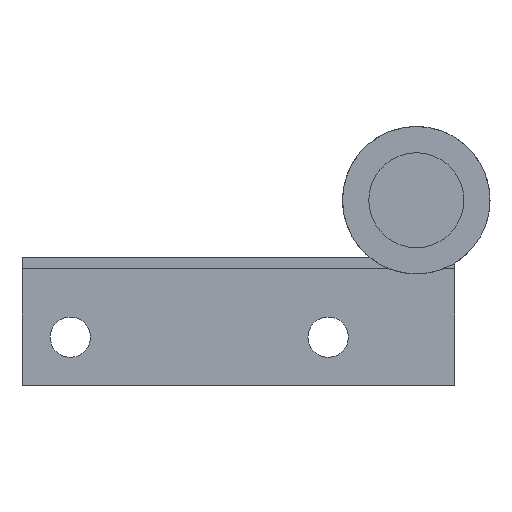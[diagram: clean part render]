
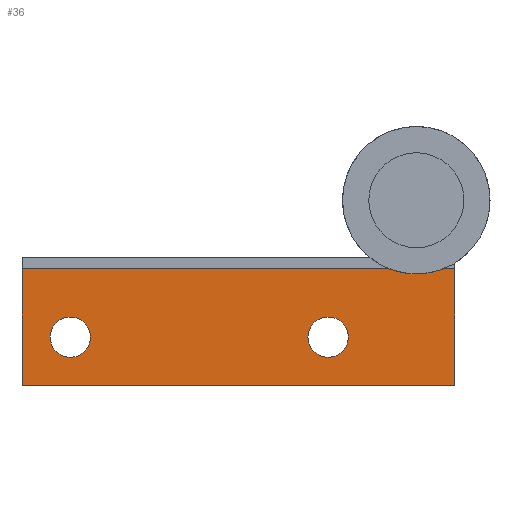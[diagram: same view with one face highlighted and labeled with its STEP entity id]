
A CAD part, front view. The second image highlights one B-rep face of the part: STEP entity #36.
In plain terms, the highlighted planar face has unit normal (0, -1, 0).
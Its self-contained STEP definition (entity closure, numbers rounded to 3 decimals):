
#1 = CARTESIAN_POINT ( 'NONE',  ( -45.45, 383.2, -17. ) ) ;
#12 = CARTESIAN_POINT ( 'NONE',  ( -13.45, 383.2, -17. ) ) ;
#17 = CARTESIAN_POINT ( 'NONE',  ( -8.45, 383.2, -17. ) ) ;
#36 = ADVANCED_FACE ( 'NONE', ( #910, #909, #920 ), #386, .F. ) ;
#59 = AXIS2_PLACEMENT_3D ( 'NONE', #625, #628, #629 ) ;
#84 = EDGE_CURVE ( 'NONE', #318, #319, #730, .T. ) ;
#88 = EDGE_CURVE ( 'NONE', #297, #277, #866, .T. ) ;
#89 = EDGE_CURVE ( 'NONE', #317, #318, #867, .T. ) ;
#96 = AXIS2_PLACEMENT_3D ( 'NONE', #472, #479, #480 ) ;
#105 = EDGE_CURVE ( 'NONE', #269, #319, #713, .T. ) ;
#110 = AXIS2_PLACEMENT_3D ( 'NONE', #539, #540, #541 ) ;
#114 = AXIS2_PLACEMENT_3D ( 'NONE', #645, #657, #658 ) ;
#135 = EDGE_CURVE ( 'NONE', #291, #294, #784, .T. ) ;
#138 = AXIS2_PLACEMENT_3D ( 'NONE', #387, #388, #389 ) ;
#174 = EDGE_CURVE ( 'NONE', #317, #269, #702, .T. ) ;
#193 = EDGE_CURVE ( 'NONE', #277, #297, #687, .T. ) ;
#211 = EDGE_CURVE ( 'NONE', #294, #291, #671, .T. ) ;
#227 = CARTESIAN_POINT ( 'NONE',  ( 4.75, 383.2, -8.5 ) ) ;
#228 = CARTESIAN_POINT ( 'NONE',  ( -48.95, 383.2, -8.5 ) ) ;
#229 = CARTESIAN_POINT ( 'NONE',  ( -48.95, 383.2, -23. ) ) ;
#262 = CARTESIAN_POINT ( 'NONE',  ( -40.45, 383.2, -17. ) ) ;
#269 = VERTEX_POINT ( 'NONE', #659 ) ;
#277 = VERTEX_POINT ( 'NONE', #1 ) ;
#291 = VERTEX_POINT ( 'NONE', #12 ) ;
#294 = VERTEX_POINT ( 'NONE', #17 ) ;
#297 = VERTEX_POINT ( 'NONE', #262 ) ;
#317 = VERTEX_POINT ( 'NONE', #227 ) ;
#318 = VERTEX_POINT ( 'NONE', #228 ) ;
#319 = VERTEX_POINT ( 'NONE', #229 ) ;
#386 = PLANE ( 'NONE',  #138 ) ;
#387 = CARTESIAN_POINT ( 'NONE',  ( 9.15, 383.2, -23. ) ) ;
#388 = DIRECTION ( 'NONE',  ( 0., 1., 0. ) ) ;
#389 = DIRECTION ( 'NONE',  ( 1., 0., 0. ) ) ;
#468 = CARTESIAN_POINT ( 'NONE',  ( -48.95, 383.2, -23. ) ) ;
#472 = CARTESIAN_POINT ( 'NONE',  ( -42.95, 383.2, -17. ) ) ;
#474 = DIRECTION ( 'NONE',  ( 0., 0., -1. ) ) ;
#475 = CARTESIAN_POINT ( 'NONE',  ( 9.15, 383.2, -8.5 ) ) ;
#479 = DIRECTION ( 'NONE',  ( 0., 1., 0. ) ) ;
#480 = DIRECTION ( 'NONE',  ( 1., 0., 0. ) ) ;
#482 = DIRECTION ( 'NONE',  ( -1., 0., 0. ) ) ;
#506 = CARTESIAN_POINT ( 'NONE',  ( 9.15, 383.2, -23. ) ) ;
#507 = DIRECTION ( 'NONE',  ( -1., 0., 0. ) ) ;
#539 = CARTESIAN_POINT ( 'NONE',  ( -10.95, 383.2, -17. ) ) ;
#540 = DIRECTION ( 'NONE',  ( 0., 1., 0. ) ) ;
#541 = DIRECTION ( 'NONE',  ( 1., 0., 0. ) ) ;
#579 = CARTESIAN_POINT ( 'NONE',  ( 4.75, 383.2, -23. ) ) ;
#592 = DIRECTION ( 'NONE',  ( 0., 0., -1. ) ) ;
#625 = CARTESIAN_POINT ( 'NONE',  ( -42.95, 383.2, -17. ) ) ;
#628 = DIRECTION ( 'NONE',  ( 0., 1., 0. ) ) ;
#629 = DIRECTION ( 'NONE',  ( 1., 0., 0. ) ) ;
#645 = CARTESIAN_POINT ( 'NONE',  ( -10.95, 383.2, -17. ) ) ;
#657 = DIRECTION ( 'NONE',  ( 0., 1., 0. ) ) ;
#658 = DIRECTION ( 'NONE',  ( 1., 0., 0. ) ) ;
#659 = CARTESIAN_POINT ( 'NONE',  ( 4.75, 383.2, -23. ) ) ;
#671 = CIRCLE ( 'NONE', #114, 2.5 ) ;
#687 = CIRCLE ( 'NONE', #59, 2.5 ) ;
#702 = LINE ( 'NONE', #579, #955 ) ;
#713 = LINE ( 'NONE', #506, #738 ) ;
#730 = LINE ( 'NONE', #468, #861 ) ;
#738 = VECTOR ( 'NONE', #507, 1000. ) ;
#784 = CIRCLE ( 'NONE', #110, 2.5 ) ;
#835 = ORIENTED_EDGE ( 'NONE', *, *, #135, .T. ) ;
#836 = ORIENTED_EDGE ( 'NONE', *, *, #211, .T. ) ;
#854 = EDGE_LOOP ( 'NONE', ( #898, #900, #901, #1068 ) ) ;
#855 = EDGE_LOOP ( 'NONE', ( #896, #897 ) ) ;
#857 = EDGE_LOOP ( 'NONE', ( #835, #836 ) ) ;
#861 = VECTOR ( 'NONE', #474, 1000. ) ;
#866 = CIRCLE ( 'NONE', #96, 2.5 ) ;
#867 = LINE ( 'NONE', #475, #1031 ) ;
#896 = ORIENTED_EDGE ( 'NONE', *, *, #193, .T. ) ;
#897 = ORIENTED_EDGE ( 'NONE', *, *, #88, .T. ) ;
#898 = ORIENTED_EDGE ( 'NONE', *, *, #89, .T. ) ;
#900 = ORIENTED_EDGE ( 'NONE', *, *, #84, .T. ) ;
#901 = ORIENTED_EDGE ( 'NONE', *, *, #105, .F. ) ;
#909 = FACE_BOUND ( 'NONE', #855, .T. ) ;
#910 = FACE_BOUND ( 'NONE', #857, .T. ) ;
#920 = FACE_OUTER_BOUND ( 'NONE', #854, .T. ) ;
#955 = VECTOR ( 'NONE', #592, 1000. ) ;
#1031 = VECTOR ( 'NONE', #482, 1000. ) ;
#1068 = ORIENTED_EDGE ( 'NONE', *, *, #174, .F. ) ;
